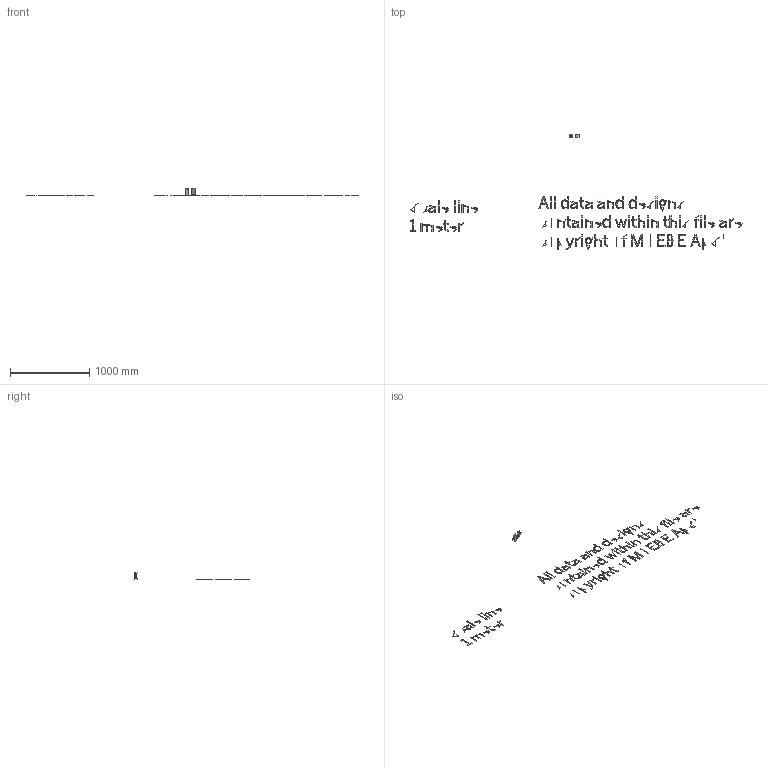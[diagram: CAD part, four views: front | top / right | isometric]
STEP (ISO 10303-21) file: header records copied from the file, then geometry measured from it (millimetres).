
FILE_DESCRIPTION(/* description */ (''),/* implementation_level */ '2;1');
FILE_NAME(/* name */ 'PINCH_MOEBE.DK_COPYYRIGHT-PROTECTED',/* time_stamp */ '2020-04-15T11:03:00+02:00',/* author */ (''),/* organization */ (''),/* preprocessor_version */ 'ST-DEVELOPER v16.5',/* originating_system */ '',/* authorisation */ '');
FILE_SCHEMA (('AUTOMOTIVE_DESIGN'));
Length unit declared in the file: millimetre
Products named in the file (1): Document
Bounding box: 4198.58 x 1460.11 x 98.01 mm (x, y, z)
Volume: 304219.1 mm3; surface area: 647763.5 mm2
Topology: 89 solids, 101 shells, 1256 faces, 3095 edges, 1932 vertices
Faces by surface type: plane 692, bspline 564
Entity records: 43036 total; most frequent: CARTESIAN_POINT 22824, ORIENTED_EDGE 6026, EDGE_CURVE 3086, B_SPLINE_CURVE_WITH_KNOTS 2514, VERTEX_POINT 1938, EDGE_LOOP 1322, ADVANCED_FACE 1250, FACE_OUTER_BOUND 1250
